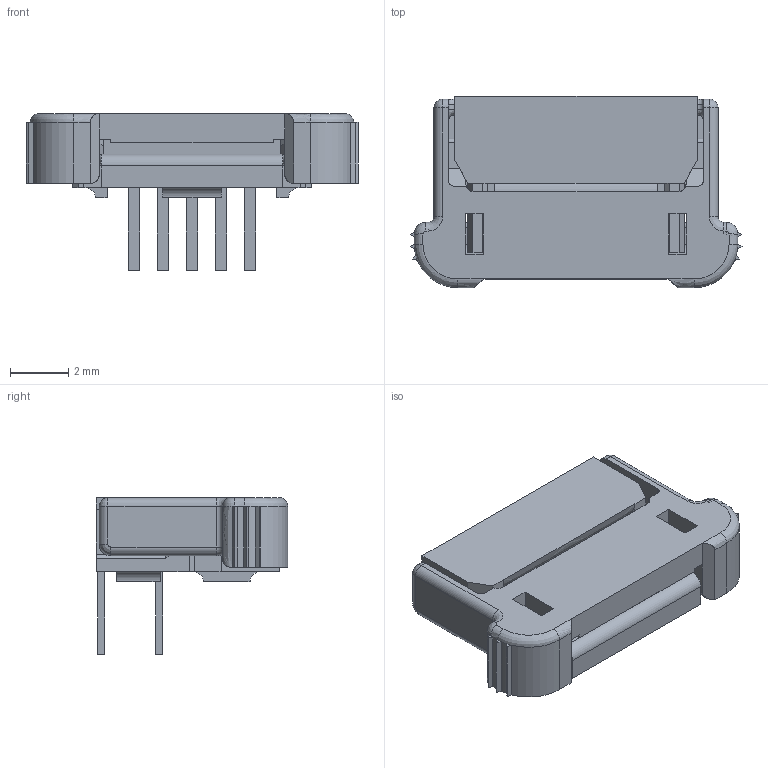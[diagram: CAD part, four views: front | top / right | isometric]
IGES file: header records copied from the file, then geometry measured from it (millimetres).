
Start section: START RECORD GO HERE.
Global section: file name: 00_6200_057_012_800.igs; native system: IBM CATIA IGES - CATIA Version 5 Release 14 ; preprocessor: CATIA Version 5 Release 14 ; author: user; organization: CATIA01; date: 20080212.190256; units: millimetre
Bounding box: 11.45 x 6.6 x 5.4 mm (x, y, z)
Surface area: 381.6 mm2 (no closed solid volume)
Topology: 0 solids, 0 shells, 279 faces, 1546 edges, 1541 vertices
Faces by surface type: plane 189, revolution 90
